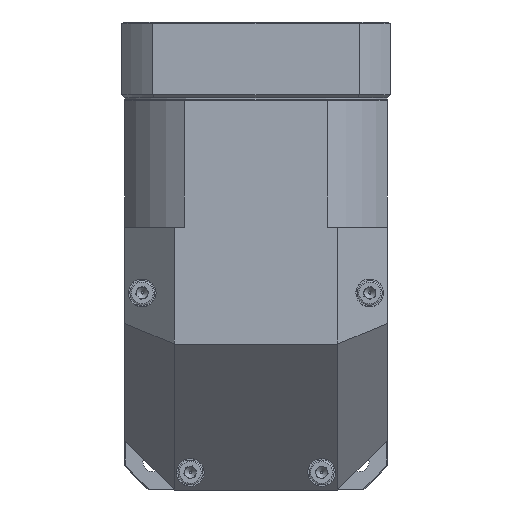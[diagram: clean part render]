
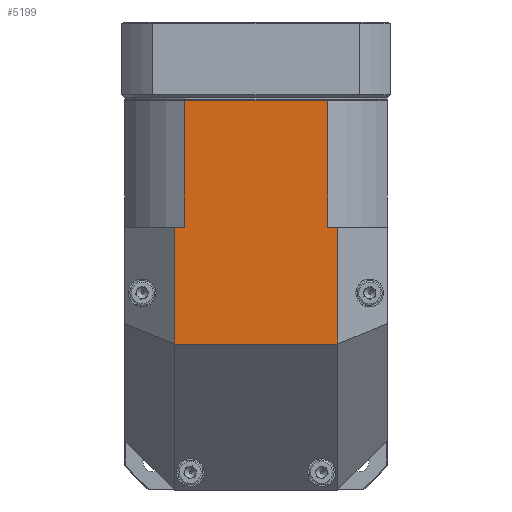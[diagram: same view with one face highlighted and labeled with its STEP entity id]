
A CAD part, front view. The second image highlights one B-rep face of the part: STEP entity #5199.
In plain terms, the highlighted planar face has unit normal (0, -1, 0).
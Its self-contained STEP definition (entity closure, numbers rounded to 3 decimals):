
#5128=CARTESIAN_POINT('',(-45.0,-45.0,88.8));
#5129=DIRECTION('',(0.0,-1.0,0.0));
#5130=DIRECTION('',(0.0,0.0,-1.0));
#5131=AXIS2_PLACEMENT_3D('',#5128,#5129,#5130);
#5132=PLANE('',#5131);
#5133=CARTESIAN_POINT('',(24.527,-45.0,45.));
#5134=VERTEX_POINT('',#5133);
#5135=CARTESIAN_POINT('',(24.527,-45.0,88.5));
#5136=VERTEX_POINT('',#5135);
#5137=CARTESIAN_POINT('',(24.527,-45.0,45.));
#5138=DIRECTION('',(0.0,0.0,1.0));
#5139=VECTOR('',#5138,43.5);
#5140=LINE('',#5137,#5139);
#5141=EDGE_CURVE('',#5134,#5136,#5140,.T.);
#5142=ORIENTED_EDGE('',*,*,#5141,.T.);
#5143=CARTESIAN_POINT('',(-24.527,-45.0,88.5));
#5144=VERTEX_POINT('',#5143);
#5145=CARTESIAN_POINT('',(24.527,-45.0,88.5));
#5146=DIRECTION('',(-1.0,0.0,0.0));
#5147=VECTOR('',#5146,49.054);
#5148=LINE('',#5145,#5147);
#5149=EDGE_CURVE('',#5136,#5144,#5148,.T.);
#5150=ORIENTED_EDGE('',*,*,#5149,.T.);
#5151=CARTESIAN_POINT('',(-24.527,-45.0,45.));
#5152=VERTEX_POINT('',#5151);
#5153=CARTESIAN_POINT('',(-24.527,-45.0,45.));
#5154=DIRECTION('',(0.0,0.0,1.0));
#5155=VECTOR('',#5154,43.5);
#5156=LINE('',#5153,#5155);
#5157=EDGE_CURVE('',#5152,#5144,#5156,.T.);
#5158=ORIENTED_EDGE('',*,*,#5157,.F.);
#5159=CARTESIAN_POINT('',(-28.,-45.0,45.));
#5160=VERTEX_POINT('',#5159);
#5161=CARTESIAN_POINT('',(-24.527,-45.0,45.));
#5162=DIRECTION('',(-1.0,0.0,0.0));
#5163=VECTOR('',#5162,3.473);
#5164=LINE('',#5161,#5163);
#5165=EDGE_CURVE('',#5152,#5160,#5164,.T.);
#5166=ORIENTED_EDGE('',*,*,#5165,.T.);
#5167=CARTESIAN_POINT('',(-28.,-45.0,5.));
#5168=VERTEX_POINT('',#5167);
#5169=CARTESIAN_POINT('',(-28.,-45.0,45.));
#5170=DIRECTION('',(0.0,0.0,-1.0));
#5171=VECTOR('',#5170,40.);
#5172=LINE('',#5169,#5171);
#5173=EDGE_CURVE('',#5160,#5168,#5172,.T.);
#5174=ORIENTED_EDGE('',*,*,#5173,.T.);
#5175=CARTESIAN_POINT('',(28.,-45.0,5.));
#5176=VERTEX_POINT('',#5175);
#5177=CARTESIAN_POINT('',(-28.,-45.0,5.));
#5178=DIRECTION('',(1.0,0.0,0.0));
#5179=VECTOR('',#5178,56.);
#5180=LINE('',#5177,#5179);
#5181=EDGE_CURVE('',#5168,#5176,#5180,.T.);
#5182=ORIENTED_EDGE('',*,*,#5181,.T.);
#5183=CARTESIAN_POINT('',(28.,-45.0,45.));
#5184=VERTEX_POINT('',#5183);
#5185=CARTESIAN_POINT('',(28.,-45.0,5.));
#5186=DIRECTION('',(0.0,0.0,1.0));
#5187=VECTOR('',#5186,40.);
#5188=LINE('',#5185,#5187);
#5189=EDGE_CURVE('',#5176,#5184,#5188,.T.);
#5190=ORIENTED_EDGE('',*,*,#5189,.T.);
#5191=CARTESIAN_POINT('',(28.,-45.0,45.));
#5192=DIRECTION('',(-1.0,0.0,0.0));
#5193=VECTOR('',#5192,3.473);
#5194=LINE('',#5191,#5193);
#5195=EDGE_CURVE('',#5184,#5134,#5194,.T.);
#5196=ORIENTED_EDGE('',*,*,#5195,.T.);
#5197=EDGE_LOOP('',(#5142,#5150,#5158,#5166,#5174,#5182,#5190,#5196));
#5198=FACE_OUTER_BOUND('',#5197,.T.);
#5199=ADVANCED_FACE('',(#5198),#5132,.T.);
